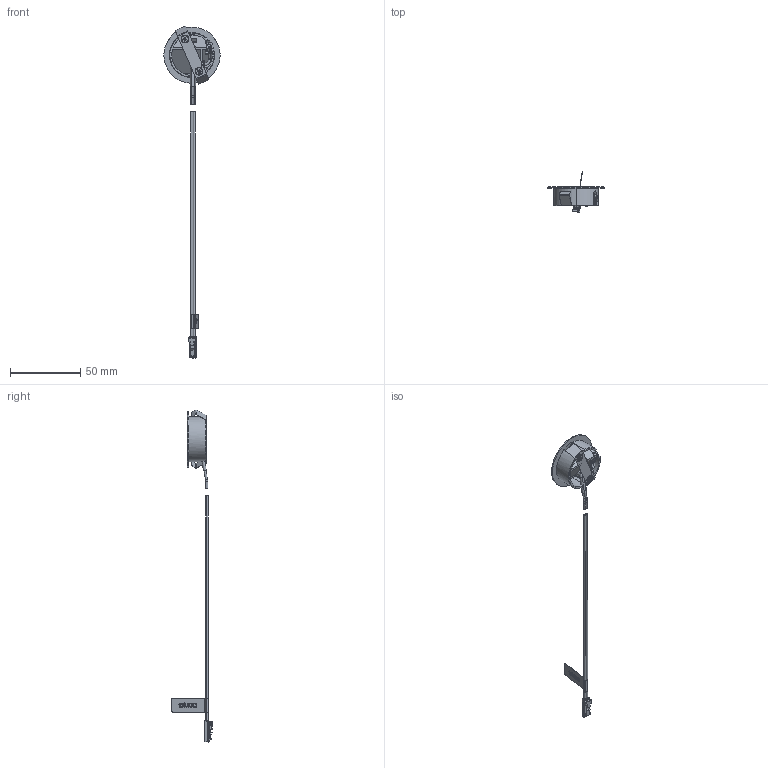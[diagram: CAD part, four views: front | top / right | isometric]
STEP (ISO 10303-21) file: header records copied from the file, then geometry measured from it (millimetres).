
FILE_DESCRIPTION (( 'STEP AP203' ), '1' );
FILE_NAME ('SideSpot_35_24.STEP', '2024-11-28T06:34:21', ( '' ), ( '' ), 'SwSTEP 2.0', 'SolidWorks 2023', '' );
FILE_SCHEMA (( 'CONFIG_CONTROL_DESIGN' ));
Length unit declared in the file: millimetre
Products named in the file (9): LED_Abdeckung_Vitrinenleuchte; SENKKOPFSCHRAUBE_MIT_ KREUZSCHLITZ_2,9X10; Einbaufeder_Vitrinenleuchte; SideSpot_35_24; Aufkleber_12VDC_mw²; PCB_Vitrineneleuchte_mw²; LED_Gehaeuse_Vitrinenleuchte_sw_3217125; 1998301_Pr2096_Zugentlastung_Boa_cable_clip_sw; 1916503_Pr1251_Mini_Stecker_LED_sw__mit Leitung L=160 mm
Assembly tree (9 placements, depth 2):
  SideSpot_35_24
    LED_Gehaeuse_Vitrinenleuchte_sw_3217125
    PCB_Vitrineneleuchte_mw²
    1998301_Pr2096_Zugentlastung_Boa_cable_clip_sw
    LED_Abdeckung_Vitrinenleuchte
    Einbaufeder_Vitrinenleuchte
    SENKKOPFSCHRAUBE_MIT_ KREUZSCHLITZ_2,9X10  x2
    1916503_Pr1251_Mini_Stecker_LED_sw__mit Leitung L=160 mm
    Aufkleber_12VDC_mw²
Bounding box: 40 x 28.83 x 236.09 mm (x, y, z)
Volume: 6568.1 mm3; surface area: 11953.9 mm2
Topology: 12 solids, 12 shells, 930 faces, 2400 edges, 1475 vertices
Faces by surface type: plane 434, cylinder 272, bspline 87, torus 69, cone 39, sphere 29
Entity records: 31688 total; most frequent: CARTESIAN_POINT 10408, ORIENTED_EDGE 4326, DIRECTION 4125, EDGE_CURVE 2163, AXIS2_PLACEMENT_3D 1421, VERTEX_POINT 1348, LINE 1283, VECTOR 1283
